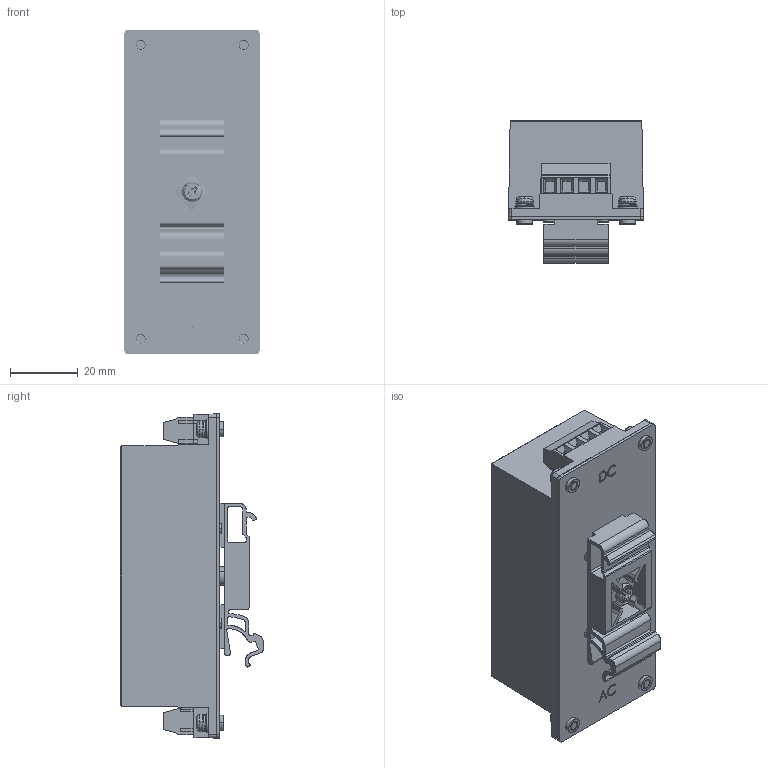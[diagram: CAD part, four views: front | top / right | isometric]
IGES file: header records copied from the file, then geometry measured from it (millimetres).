
Start section: SolidWorks IGES file using analytic representation for surfaces
Global section: file name: C:\Users\ksmith.XPNA\Desktop\EML30\EML30-S\EML30-S with DIN Rail Clip IGES.IGS; native system: SolidWorks 2014; preprocessor: SolidWorks 2014; author: ksmith; date: 140730.143210; units: inch
Bounding box: 40 x 42.15 x 96 mm (x, y, z)
Surface area: 54886.9 mm2 (no closed solid volume)
Topology: 0 solids, 0 shells, 1532 faces, 16963 edges, 16952 vertices
Faces by surface type: bspline 1047, revolution 485
